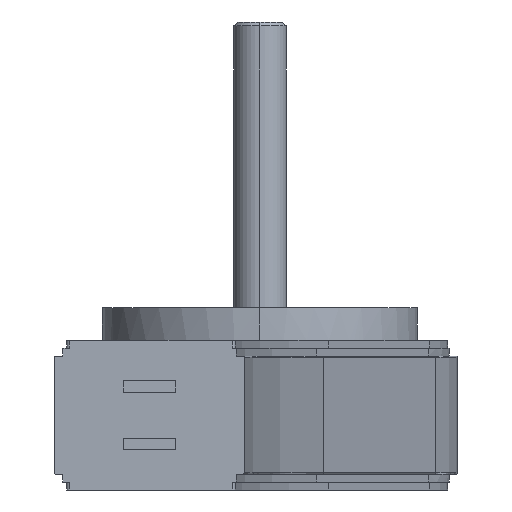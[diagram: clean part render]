
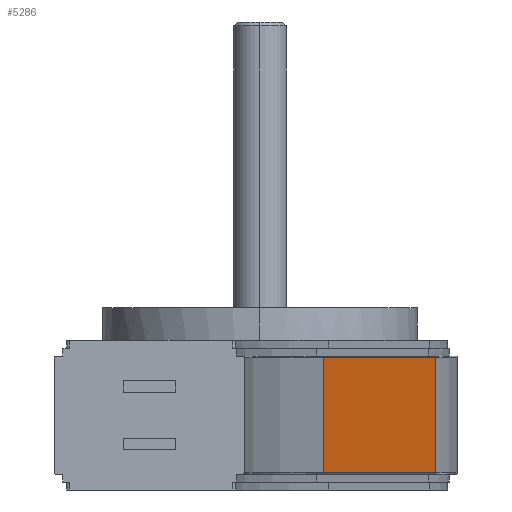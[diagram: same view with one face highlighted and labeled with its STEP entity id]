
A CAD part, left-side view. The second image highlights one B-rep face of the part: STEP entity #5286.
In plain terms, the highlighted planar face has unit normal (-0.457, -0.889, 0).
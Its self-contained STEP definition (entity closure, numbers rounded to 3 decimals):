
#617 = VERTEX_POINT ( 'NONE', #6274 ) ;
#633 = DIRECTION ( 'NONE',  ( -0.889, 0.457, 0. ) ) ;
#1065 = AXIS2_PLACEMENT_3D ( 'NONE', #9650, #6432, #3150 ) ;
#1438 = EDGE_CURVE ( 'NONE', #7396, #5759, #3321, .T. ) ;
#1486 = ORIENTED_EDGE ( 'NONE', *, *, #1438, .F. ) ;
#2784 = EDGE_CURVE ( 'NONE', #4394, #7396, #2830, .T. ) ;
#2830 = LINE ( 'NONE', #5500, #5573 ) ;
#3150 = DIRECTION ( 'NONE',  ( 0.889, -0.457, 0. ) ) ;
#3183 = PLANE ( 'NONE',  #1065 ) ;
#3321 = LINE ( 'NONE', #8291, #9128 ) ;
#3726 = CARTESIAN_POINT ( 'NONE',  ( -116.738, -24.192, 22. ) ) ;
#3897 = CARTESIAN_POINT ( 'NONE',  ( -116.738, -24.192, -22. ) ) ;
#3920 = ORIENTED_EDGE ( 'NONE', *, *, #2784, .F. ) ;
#4053 = CARTESIAN_POINT ( 'NONE',  ( -33.55, -66.932, -22. ) ) ;
#4085 = CARTESIAN_POINT ( 'NONE',  ( -33.55, -66.932, 22. ) ) ;
#4323 = CARTESIAN_POINT ( 'NONE',  ( -33.55, -66.932, 22. ) ) ;
#4394 = VERTEX_POINT ( 'NONE', #4053 ) ;
#4411 = DIRECTION ( 'NONE',  ( -0.889, 0.457, 0. ) ) ;
#4467 = DIRECTION ( 'NONE',  ( 0., 0., 1. ) ) ;
#4663 = VECTOR ( 'NONE', #4467, 1000. ) ;
#5137 = ORIENTED_EDGE ( 'NONE', *, *, #8422, .T. ) ;
#5286 = ADVANCED_FACE ( 'NONE', ( #5638 ), #3183, .T. ) ;
#5500 = CARTESIAN_POINT ( 'NONE',  ( -33.55, -66.932, -22. ) ) ;
#5573 = VECTOR ( 'NONE', #633, 1000. ) ;
#5638 = FACE_OUTER_BOUND ( 'NONE', #10097, .T. ) ;
#5720 = EDGE_CURVE ( 'NONE', #4394, #617, #5906, .T. ) ;
#5759 = VERTEX_POINT ( 'NONE', #3726 ) ;
#5906 = LINE ( 'NONE', #4323, #4663 ) ;
#6111 = VECTOR ( 'NONE', #4411, 1000. ) ;
#6274 = CARTESIAN_POINT ( 'NONE',  ( -33.55, -66.932, 22. ) ) ;
#6301 = DIRECTION ( 'NONE',  ( 0., 0., 1. ) ) ;
#6432 = DIRECTION ( 'NONE',  ( -0.457, -0.889, 0. ) ) ;
#7396 = VERTEX_POINT ( 'NONE', #3897 ) ;
#8146 = LINE ( 'NONE', #4085, #6111 ) ;
#8291 = CARTESIAN_POINT ( 'NONE',  ( -116.738, -24.192, 22. ) ) ;
#8422 = EDGE_CURVE ( 'NONE', #617, #5759, #8146, .T. ) ;
#9128 = VECTOR ( 'NONE', #6301, 1000. ) ;
#9563 = ORIENTED_EDGE ( 'NONE', *, *, #5720, .T. ) ;
#9650 = CARTESIAN_POINT ( 'NONE',  ( -33.55, -66.932, 22. ) ) ;
#10097 = EDGE_LOOP ( 'NONE', ( #9563, #5137, #1486, #3920 ) ) ;
